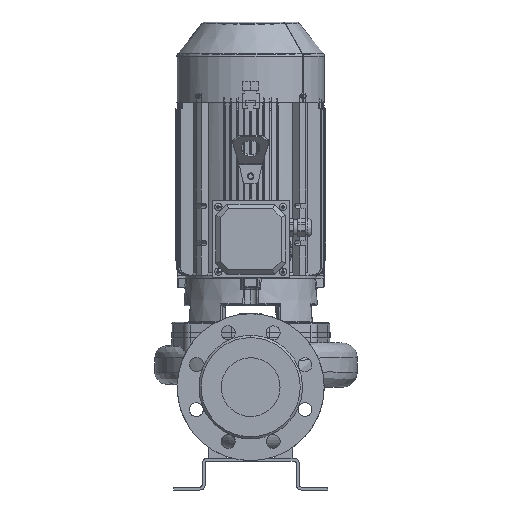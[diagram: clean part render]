
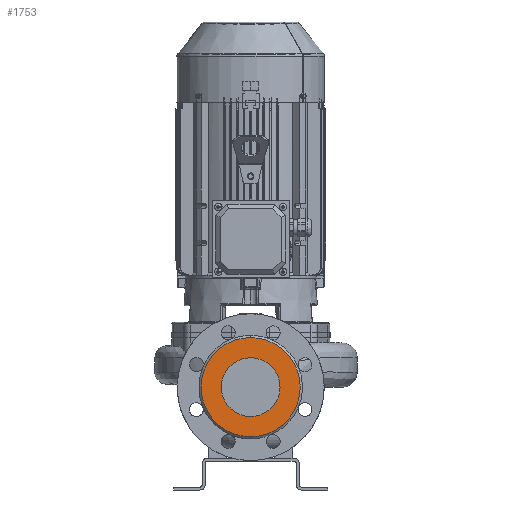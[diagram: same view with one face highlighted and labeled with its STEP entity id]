
A CAD part, front view. The second image highlights one B-rep face of the part: STEP entity #1753.
In plain terms, the highlighted planar face has unit normal (0, -1, 0) as drawn and (0, 1, 0) by its records, which use the part's own axes.
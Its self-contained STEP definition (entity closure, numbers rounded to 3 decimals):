
#1753=ADVANCED_FACE('',(#3510,#3511),#3512,.T.);
#1757=EDGE_CURVE('',#3517,#3518,#3519,.T.);
#1817=EDGE_CURVE('',#3627,#3628,#3629,.T.);
#2015=EDGE_CURVE('',#3628,#3627,#3928,.T.);
#2087=EDGE_CURVE('',#3518,#3517,#4006,.T.);
#3510=FACE_BOUND('',#10582,.T.);
#3511=FACE_OUTER_BOUND('',#10583,.T.);
#3512=PLANE('',#10584);
#3517=VERTEX_POINT('',#10789);
#3518=VERTEX_POINT('',#10790);
#3519=CIRCLE('',#10791,67.5);
#3627=VERTEX_POINT('',#10947);
#3628=VERTEX_POINT('',#10948);
#3629=CIRCLE('',#10949,40.0);
#3928=CIRCLE('',#11388,40.0);
#4006=CIRCLE('',#11521,67.5);
#10582=EDGE_LOOP('',(#18996,#18997));
#10583=EDGE_LOOP('',(#18998,#18999));
#10584=AXIS2_PLACEMENT_3D('',#19000,#19001,#19002);
#10789=CARTESIAN_POINT('',(0.,223.0,-97.5));
#10790=CARTESIAN_POINT('',(0.,223.0,37.5));
#10791=AXIS2_PLACEMENT_3D('',#19016,#19017,#19018);
#10947=CARTESIAN_POINT('',(14.674,223.0,-67.211));
#10948=CARTESIAN_POINT('',(-14.674,223.0,7.211));
#10949=AXIS2_PLACEMENT_3D('',#19101,#19102,#19103);
#11388=AXIS2_PLACEMENT_3D('',#19380,#19381,#19382);
#11521=AXIS2_PLACEMENT_3D('',#19483,#19484,#19485);
#18996=ORIENTED_EDGE('',*,*,#1817,.T.);
#18997=ORIENTED_EDGE('',*,*,#2015,.T.);
#18998=ORIENTED_EDGE('',*,*,#1757,.F.);
#18999=ORIENTED_EDGE('',*,*,#2087,.F.);
#19000=CARTESIAN_POINT('',(42.898,223.0,-4.315));
#19001=DIRECTION('',(0.0,1.0,0.0));
#19002=DIRECTION('',(0.0,0.0,1.0));
#19016=CARTESIAN_POINT('',(0.,223.0,-30.0));
#19017=DIRECTION('',(0.0,-1.0,0.0));
#19018=DIRECTION('',(0.,0.0,-1.0));
#19101=CARTESIAN_POINT('',(0.0,223.0,-30.0));
#19102=DIRECTION('',(0.0,-1.0,0.0));
#19103=DIRECTION('',(0.367,0.0,-0.93));
#19380=CARTESIAN_POINT('',(0.0,223.0,-30.0));
#19381=DIRECTION('',(0.0,-1.0,0.0));
#19382=DIRECTION('',(0.367,0.0,-0.93));
#19483=CARTESIAN_POINT('',(0.,223.0,-30.0));
#19484=DIRECTION('',(0.0,-1.0,0.0));
#19485=DIRECTION('',(0.,0.0,-1.0));
